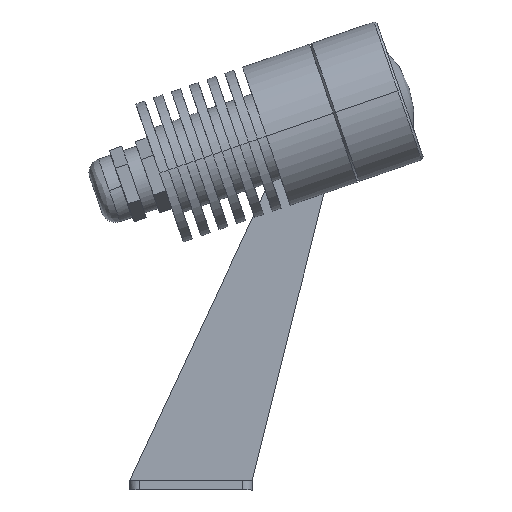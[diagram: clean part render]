
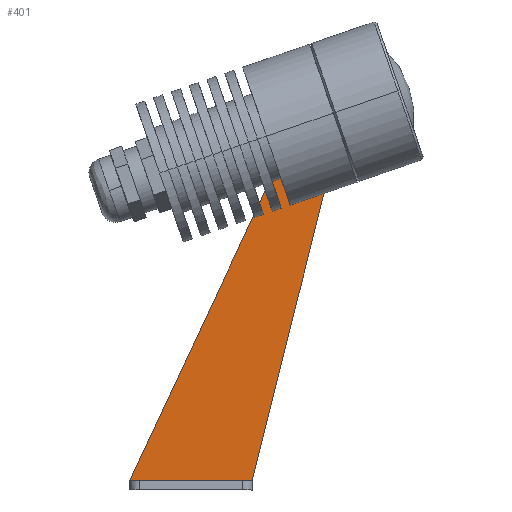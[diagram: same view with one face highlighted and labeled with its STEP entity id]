
A CAD part, left-side view. The second image highlights one B-rep face of the part: STEP entity #401.
In plain terms, the highlighted planar face has unit normal (-1, 0, 0).
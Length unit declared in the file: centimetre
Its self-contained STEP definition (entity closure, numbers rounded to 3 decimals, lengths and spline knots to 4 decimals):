
#20=FACE_BOUND('',#759,.T.);
#143=B_SPLINE_CURVE_WITH_KNOTS('',1,(#3772,#3773),.UNSPECIFIED.,.F.,.F.,
(2,2),(-75.2156,0.),.UNSPECIFIED.);
#148=B_SPLINE_CURVE_WITH_KNOTS('',1,(#3800,#3801),.UNSPECIFIED.,.F.,.F.,
(2,2),(0.,75.4905),.UNSPECIFIED.);
#151=B_SPLINE_CURVE_WITH_KNOTS('',1,(#3806,#3807),.UNSPECIFIED.,.F.,.F.,
(2,2),(-13.1264,12.8775),.UNSPECIFIED.);
#401=ADVANCED_FACE('',(#575,#20),#2473,.T.);
#575=FACE_OUTER_BOUND('',#758,.T.);
#758=EDGE_LOOP('',(#1229,#1230,#1231,#1232));
#759=EDGE_LOOP('',(#1233,#1234));
#1229=ORIENTED_EDGE('',*,*,#1796,.F.);
#1230=ORIENTED_EDGE('',*,*,#1793,.F.);
#1231=ORIENTED_EDGE('',*,*,#1790,.F.);
#1232=ORIENTED_EDGE('',*,*,#1786,.F.);
#1233=ORIENTED_EDGE('',*,*,#1820,.F.);
#1234=ORIENTED_EDGE('',*,*,#1783,.F.);
#1783=EDGE_CURVE('',#2273,#2298,#2055,.T.);
#1786=EDGE_CURVE('',#2275,#2276,#143,.T.);
#1790=EDGE_CURVE('',#2276,#2279,#2057,.T.);
#1793=EDGE_CURVE('',#2279,#2281,#148,.T.);
#1796=EDGE_CURVE('',#2281,#2275,#151,.T.);
#1820=EDGE_CURVE('',#2298,#2273,#2067,.T.);
#2055=(
BOUNDED_CURVE()
B_SPLINE_CURVE(2,(#3760,#3761,#3762,#3763,#3764),.UNSPECIFIED.,.F.,.F.)
B_SPLINE_CURVE_WITH_KNOTS((3,2,3),(0.,3.5343,7.0686),
 .UNSPECIFIED.)
CURVE()
GEOMETRIC_REPRESENTATION_ITEM()
RATIONAL_B_SPLINE_CURVE((1.,0.707,1.,0.707,1.))
REPRESENTATION_ITEM('')
);
#2057=(
BOUNDED_CURVE()
B_SPLINE_CURVE(2,(#3780,#3781,#3782,#3783,#3784,#3785,#3786,#3787,#3788),
 .UNSPECIFIED.,.F.,.F.)
B_SPLINE_CURVE_WITH_KNOTS((3,2,2,2,3),(0.,9.4799,18.9598,
28.4396,37.9195),.UNSPECIFIED.)
CURVE()
GEOMETRIC_REPRESENTATION_ITEM()
RATIONAL_B_SPLINE_CURVE((1.,0.849,1.,0.849,1.,0.849,
1.,0.849,1.))
REPRESENTATION_ITEM('')
);
#2067=(
BOUNDED_CURVE()
B_SPLINE_CURVE(2,(#3870,#3871,#3872,#3873,#3874),.UNSPECIFIED.,.F.,.F.)
B_SPLINE_CURVE_WITH_KNOTS((3,2,3),(7.0686,10.6029,14.1372),
 .UNSPECIFIED.)
CURVE()
GEOMETRIC_REPRESENTATION_ITEM()
RATIONAL_B_SPLINE_CURVE((1.,0.707,1.,0.707,1.))
REPRESENTATION_ITEM('')
);
#2273=VERTEX_POINT('',#3734);
#2275=VERTEX_POINT('',#3736);
#2276=VERTEX_POINT('',#3737);
#2279=VERTEX_POINT('',#3740);
#2281=VERTEX_POINT('',#3742);
#2298=VERTEX_POINT('',#3759);
#2473=PLANE('',#2669);
#2669=AXIS2_PLACEMENT_3D('',#3722,#2831,$);
#2831=DIRECTION('',(-1.,0.,0.));
#3722=CARTESIAN_POINT('',(265.5109,176.4316,9.8356));
#3734=CARTESIAN_POINT('',(265.5109,183.7953,-0.0526));
#3736=CARTESIAN_POINT('',(265.5109,222.1517,-75.5526));
#3737=CARTESIAN_POINT('',(265.5109,190.2719,-7.4273));
#3740=CARTESIAN_POINT('',(265.5109,177.8513,-2.3129));
#3742=CARTESIAN_POINT('',(265.5109,196.1478,-75.5526));
#3759=CARTESIAN_POINT('',(265.5109,188.2953,-0.0526));
#3760=CARTESIAN_POINT('',(265.5109,183.7953,-0.0526));
#3761=CARTESIAN_POINT('',(265.5109,183.7953,2.1974));
#3762=CARTESIAN_POINT('',(265.5109,186.0453,2.1974));
#3763=CARTESIAN_POINT('',(265.5109,188.2953,2.1974));
#3764=CARTESIAN_POINT('',(265.5109,188.2953,-0.0526));
#3772=CARTESIAN_POINT('',(265.5109,222.1517,-75.5526));
#3773=CARTESIAN_POINT('',(265.5109,190.2719,-7.4273));
#3780=CARTESIAN_POINT('',(265.5109,190.2719,-7.4273));
#3781=CARTESIAN_POINT('',(265.5109,194.8712,-4.7913));
#3782=CARTESIAN_POINT('',(265.5109,194.5274,0.4987));
#3783=CARTESIAN_POINT('',(265.5109,194.1835,5.7887));
#3784=CARTESIAN_POINT('',(265.5109,189.2816,7.8072));
#3785=CARTESIAN_POINT('',(265.5109,184.3798,9.8256));
#3786=CARTESIAN_POINT('',(265.5109,180.4107,6.3115));
#3787=CARTESIAN_POINT('',(265.5109,176.4416,2.7974));
#3788=CARTESIAN_POINT('',(265.5109,177.8513,-2.3129));
#3800=CARTESIAN_POINT('',(265.5109,177.8513,-2.3129));
#3801=CARTESIAN_POINT('',(265.5109,196.1478,-75.5526));
#3806=CARTESIAN_POINT('',(265.5109,196.1478,-75.5526));
#3807=CARTESIAN_POINT('',(265.5109,222.1517,-75.5526));
#3870=CARTESIAN_POINT('',(265.5109,188.2953,-0.0526));
#3871=CARTESIAN_POINT('',(265.5109,188.2953,-2.3026));
#3872=CARTESIAN_POINT('',(265.5109,186.0453,-2.3026));
#3873=CARTESIAN_POINT('',(265.5109,183.7953,-2.3026));
#3874=CARTESIAN_POINT('',(265.5109,183.7953,-0.0526));
